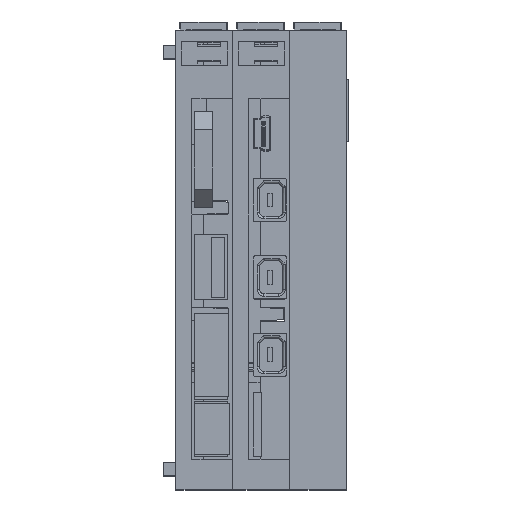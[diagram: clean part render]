
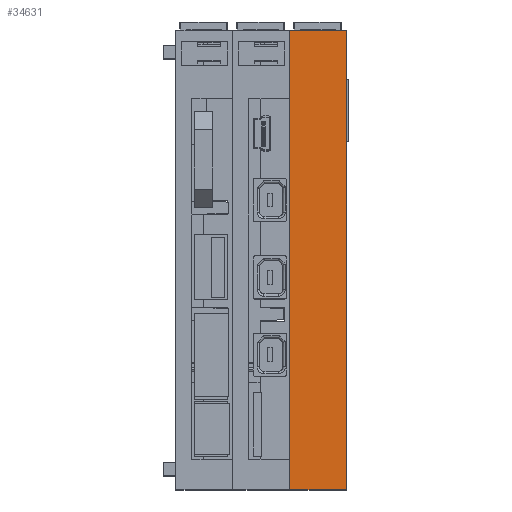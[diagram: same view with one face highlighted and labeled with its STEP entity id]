
A CAD part, top view. The second image highlights one B-rep face of the part: STEP entity #34631.
In plain terms, the highlighted planar face has unit normal (0, 0, 1) as drawn and (1, 0, 0) by its records, which use the part's own axes.
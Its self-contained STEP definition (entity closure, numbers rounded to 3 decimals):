
#532 = CARTESIAN_POINT ( 'NONE',  ( 58.397, 46.327, -11.5 ) ) ;
#566 = LINE ( 'NONE', #28253, #32367 ) ;
#1373 = CARTESIAN_POINT ( 'NONE',  ( 58.397, -54.473, -11.5 ) ) ;
#5660 = EDGE_CURVE ( 'NONE', #45097, #18238, #18368, .T. ) ;
#10391 = VERTEX_POINT ( 'NONE', #1373 ) ;
#11038 = DIRECTION ( 'NONE',  ( 0., 0., -1. ) ) ;
#12082 = CARTESIAN_POINT ( 'NONE',  ( 58.397, -54.473, -24. ) ) ;
#12499 = VECTOR ( 'NONE', #11038, 1000. ) ;
#12813 = ORIENTED_EDGE ( 'NONE', *, *, #31355, .F. ) ;
#13492 = CARTESIAN_POINT ( 'NONE',  ( 58.397, 43.727, -2. ) ) ;
#13627 = LINE ( 'NONE', #18118, #12499 ) ;
#13662 = PLANE ( 'NONE',  #16466 ) ;
#15071 = DIRECTION ( 'NONE',  ( 0., -1., 0. ) ) ;
#15588 = FACE_OUTER_BOUND ( 'NONE', #24486, .T. ) ;
#16466 = AXIS2_PLACEMENT_3D ( 'NONE', #13492, #24087, #45441 ) ;
#18118 = CARTESIAN_POINT ( 'NONE',  ( 58.397, -54.473, 0.758 ) ) ;
#18238 = VERTEX_POINT ( 'NONE', #12082 ) ;
#18368 = LINE ( 'NONE', #25349, #35649 ) ;
#22040 = EDGE_CURVE ( 'NONE', #30786, #45097, #40299, .T. ) ;
#22091 = CARTESIAN_POINT ( 'NONE',  ( 58.397, 46.327, -24. ) ) ;
#23605 = VECTOR ( 'NONE', #35255, 1000. ) ;
#24087 = DIRECTION ( 'NONE',  ( -1., 0., 0. ) ) ;
#24486 = EDGE_LOOP ( 'NONE', ( #29402, #40645, #12813, #29621 ) ) ;
#25349 = CARTESIAN_POINT ( 'NONE',  ( 58.397, 46.827, -24. ) ) ;
#28253 = CARTESIAN_POINT ( 'NONE',  ( 58.397, 44.827, -11.5 ) ) ;
#29402 = ORIENTED_EDGE ( 'NONE', *, *, #5660, .F. ) ;
#29621 = ORIENTED_EDGE ( 'NONE', *, *, #30176, .T. ) ;
#30176 = EDGE_CURVE ( 'NONE', #10391, #18238, #13627, .T. ) ;
#30786 = VERTEX_POINT ( 'NONE', #532 ) ;
#31355 = EDGE_CURVE ( 'NONE', #10391, #30786, #566, .T. ) ;
#32367 = VECTOR ( 'NONE', #42029, 1000. ) ;
#34631 = ADVANCED_FACE ( 'NONE', ( #15588 ), #13662, .F. ) ;
#35255 = DIRECTION ( 'NONE',  ( 0., 0., -1. ) ) ;
#35649 = VECTOR ( 'NONE', #15071, 1000. ) ;
#40299 = LINE ( 'NONE', #45532, #23605 ) ;
#40645 = ORIENTED_EDGE ( 'NONE', *, *, #22040, .F. ) ;
#42029 = DIRECTION ( 'NONE',  ( 0., 1., 0. ) ) ;
#45097 = VERTEX_POINT ( 'NONE', #22091 ) ;
#45441 = DIRECTION ( 'NONE',  ( 0., 0., 1. ) ) ;
#45532 = CARTESIAN_POINT ( 'NONE',  ( 58.397, 46.327, -11.5 ) ) ;
